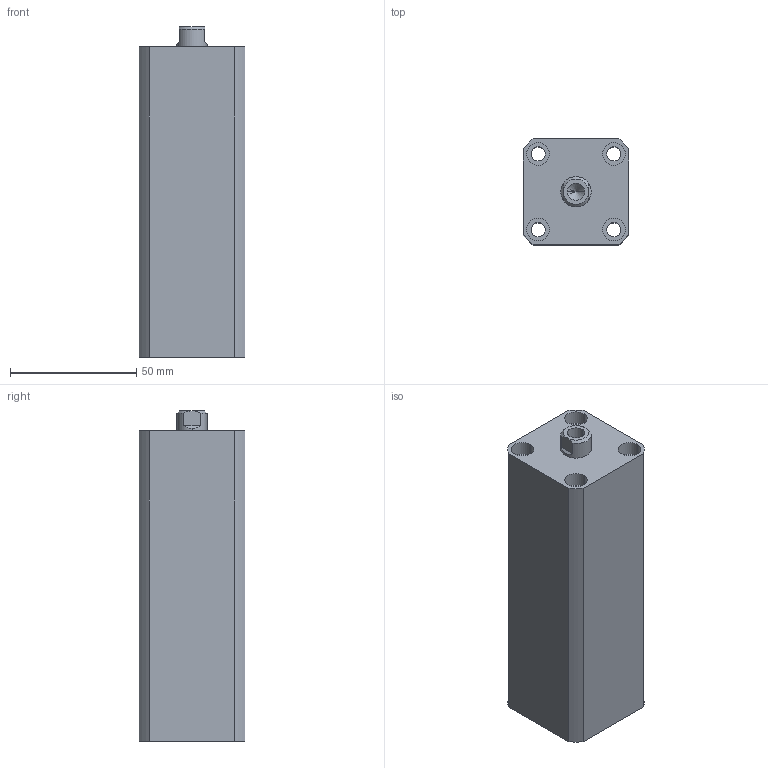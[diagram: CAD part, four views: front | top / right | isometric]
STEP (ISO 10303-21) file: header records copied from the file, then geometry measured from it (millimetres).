
FILE_DESCRIPTION (( 'STEP AP203' ), '1' );
FILE_NAME ('HTB-SDMB20-80N.STEP', '2019-10-09T00:09:44', ( '微软用户' ), ( '微软中国' ), 'SwSTEP 2.0', 'SolidWorks 2012', '' );
FILE_SCHEMA (( 'CONFIG_CONTROL_DESIGN' ));
Length unit declared in the file: millimetre
Products named in the file (3): HTB-SDMB20-80N; HTB-SDMB20-80N活塞杆; HTB-SDMB20-80掛极
Assembly tree (2 placements, depth 2):
  HTB-SDMB20-80N
    HTB-SDMB20-80掛极
    HTB-SDMB20-80N活塞杆
Bounding box: 42 x 42 x 131 mm (x, y, z)
Volume: 183366.7 mm3; surface area: 45127.2 mm2
Topology: 2 solids, 2 shells, 136 faces, 326 edges, 213 vertices
Faces by surface type: plane 64, cylinder 46, bspline 16, torus 6, cone 4
Entity records: 5023 total; most frequent: CARTESIAN_POINT 1570, ORIENTED_EDGE 648, DIRECTION 640, EDGE_CURVE 324, AXIS2_PLACEMENT_3D 231, VERTEX_POINT 213, LINE 178, VECTOR 178
